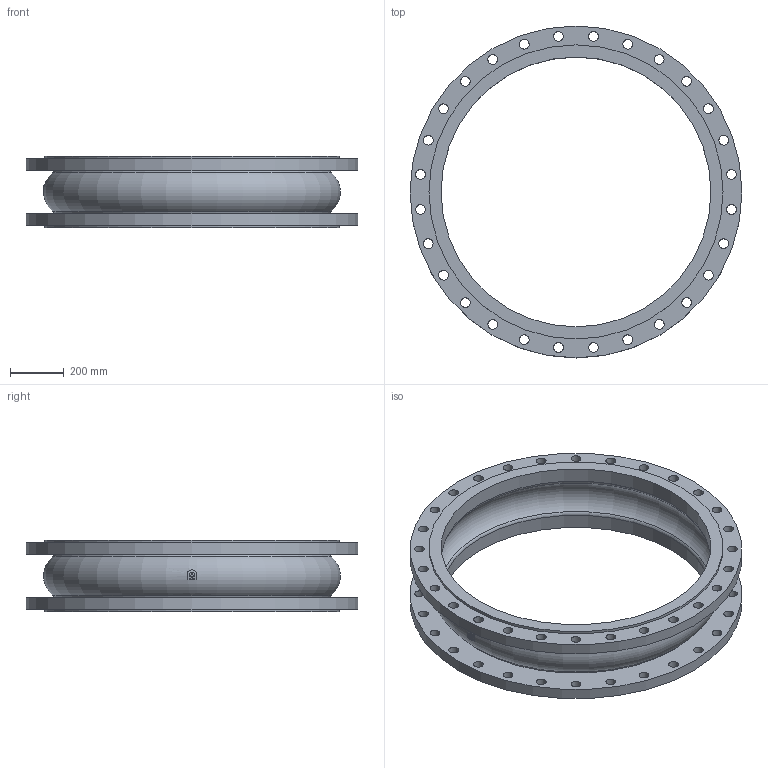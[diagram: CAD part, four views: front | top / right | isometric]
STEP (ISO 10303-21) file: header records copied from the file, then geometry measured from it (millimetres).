
FILE_DESCRIPTION(('STEP AP203'), '1');
FILE_NAME('Êîìïåíñàòîð KMS DN1000 PN10', '', ('UNSPECIFIED'), ('UNSPECIFIED'), 'ASCON STEP Converter 1.6', 'ASCON Math Kernel', '');
FILE_SCHEMA(('CONFIG_CONTROL_DESIGN'));
Length unit declared in the file: millimetre
Bounding box: 1230 x 1230 x 265 mm (x, y, z)
Volume: 40664710.4 mm3; surface area: 3660817.7 mm2
Topology: 1 solids, 1 shells, 91 faces, 240 edges, 158 vertices
Faces by surface type: cylinder 69, plane 13, torus 9
Full cylindrical faces by diameter (mm): 36 x56, 1000 x2, 1090 x2, 1230 x2
Entity records: 4558 total; most frequent: CARTESIAN_POINT 1491, DIRECTION 470, ORIENTED_EDGE 344, EDGE_LOOP 280, AXIS2_PLACEMENT_3D 228, EDGE_CURVE 172, VERTEX_POINT 158, FACE_BOUND 144
